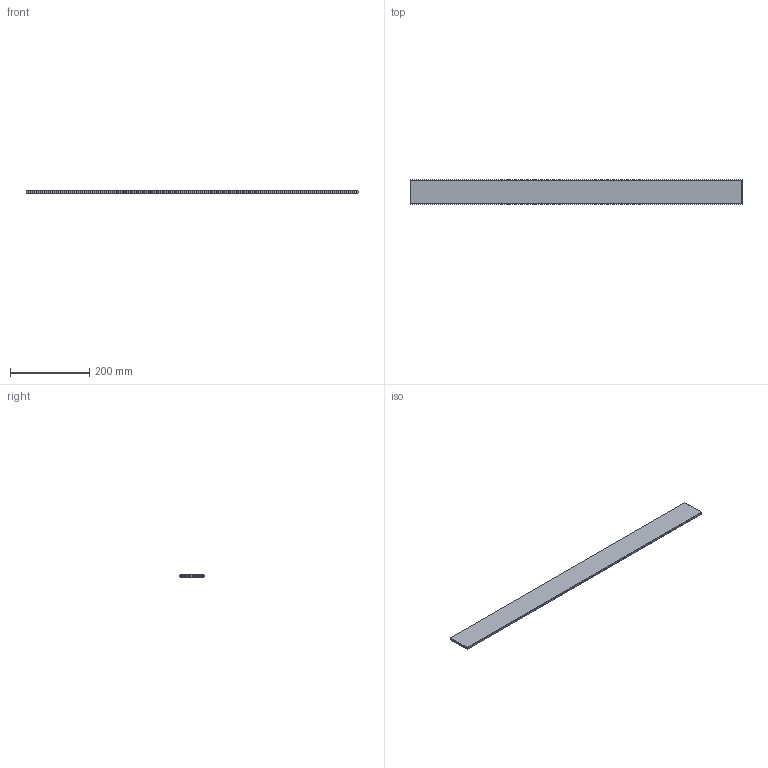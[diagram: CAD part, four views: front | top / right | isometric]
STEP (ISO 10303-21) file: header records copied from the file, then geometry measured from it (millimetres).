
FILE_DESCRIPTION((''),'2;1');
FILE_NAME('238474-HI','2023-01-30T08:39:54',('1ke04'),('Kesseboehmer'),'CREO PARAMETRIC BY PTC INC, 2020414','CREO PARAMETRIC BY PTC INC, 2020414','');
FILE_SCHEMA(('AUTOMOTIVE_DESIGN { 1 0 10303 214 1 1 1 1 }'));
Length unit declared in the file: millimetre
Products named in the file (1): 238474-HI
Bounding box: 839 x 61 x 6 mm (x, y, z)
Volume: 305276.7 mm3; surface area: 111045.9 mm2
Topology: 1 solids, 1 shells, 14 faces, 28 edges, 16 vertices
Faces by surface type: plane 14
Entity records: 966 total; most frequent: COLOUR_RGB 194, DIRECTION 81, CARTESIAN_POINT 76, ORIENTED_EDGE 56, PROPERTY_DEFINITION 39, REPRESENTATION 38, PROPERTY_DEFINITION_REPRESENTATION 38, PRESENTATION_STYLE_ASSIGNMENT 32
